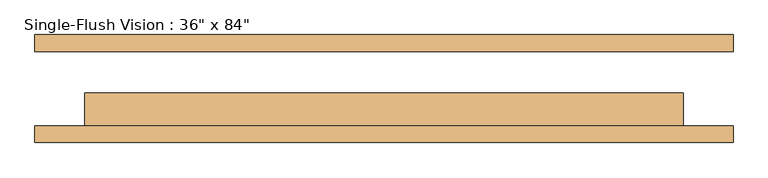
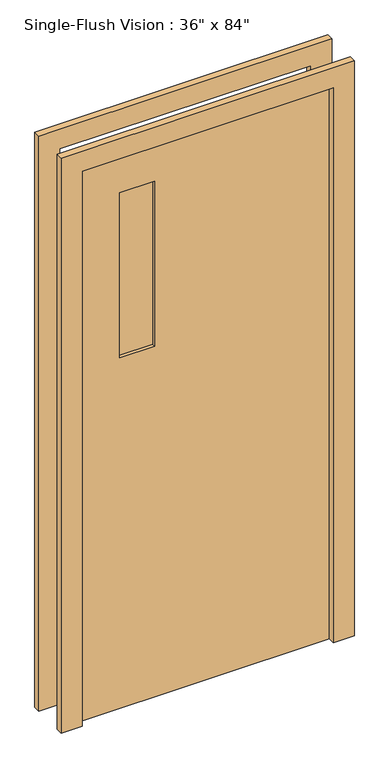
"""IFC4 building model written with IfcOpenShell, lengths in millimetres: door geometry."""

from ifc_helpers import new_model, si_unit, frame, origin, place, context, project, spatial, polyline, outline, extrude, source, transform, mapped, element, save


def door_2709d5e0(model_context):
    return source(origin(), model_context, "Body", "SweptSolid", [
        extrude(outline(polyline([(2209.8, -533.4), (0.0, -533.4), (0.0, -457.2), (2133.6, -457.2), (2133.6, 457.2), (0.0, 457.2), (0.0, 533.4), (2209.8, 533.4), (2209.8, -533.4)])), frame((0.0, -82.55, 0.0), z_axis=(0.0, 1.0, 0.0), x_axis=(0.0, 0.0, 1.0)), (0.0, 0.0, 1.0), 25.4),
        extrude(outline(polyline([(2133.6, 457.2), (0.0, 457.2), (0.0, 533.4), (2209.8, 533.4), (2209.8, -533.4), (0.0, -533.4), (0.0, -457.2), (2133.6, -457.2), (2133.6, 457.2)])), frame((0.0, 57.15, 0.0), z_axis=(0.0, 1.0, 0.0), x_axis=(0.0, 0.0, 1.0)), (0.0, 0.0, 1.0), 25.4),
        extrude(outline(polyline([(-177.8, -19.05), (-177.8, -25.4), (-304.8, -25.4), (-304.8, -19.05), (-177.8, -19.05)])), frame((0.0, 0.0, 1346.2), z_axis=(0.0, 0.0, 1.0), x_axis=(1.0, 0.0, 0.0)), (0.0, 0.0, 1.0), 635.0),
        extrude(outline(polyline([(-177.8, -38.1), (-177.8, -44.45), (-304.8, -44.45), (-304.8, -38.1), (-177.8, -38.1)])), frame((0.0, 0.0, 1346.2), z_axis=(0.0, 0.0, 1.0), x_axis=(1.0, 0.0, 0.0)), (0.0, 0.0, 1.0), 635.0),
        extrude(outline(polyline([(2133.6, -457.2), (0.0, -457.2), (0.0, 457.2), (2133.6, 457.2), (2133.6, -457.2)]), holes=[polyline([(1981.2, -304.8), (1981.2, -177.8), (1346.2, -177.8), (1346.2, -304.8), (1981.2, -304.8)])]), frame((0.0, -57.15, 0.0), z_axis=(0.0, 1.0, 0.0), x_axis=(0.0, 0.0, 1.0)), (0.0, 0.0, 1.0), 50.8),
    ])


if __name__ == "__main__":
    model = new_model("IFC4")
    model_context = context("Model", 3, world=origin())
    ifc_project = project(units=[si_unit("LENGTHUNIT", "METRE", prefix="MILLI")], contexts=[model_context])
    site = spatial("IfcSite", under=ifc_project)
    building = spatial("IfcBuilding", under=site)
    placement = place(None, origin())
    door_shape = door_2709d5e0(model_context)
    element("IfcDoor", 1, ObjectType="Single-Flush Vision : 36\" x 84\"", at=placement, inside=building, context=model_context, shape_type="MappedRepresentation", body=[
        mapped(door_shape, transform((0.0, 0.0, 0.0), x_axis=(1.0, 0.0, 0.0), y_axis=(0.0, 1.0, 0.0), z_axis=(0.0, 0.0, 1.0))),
    ])
    save(model, "model.ifc")
